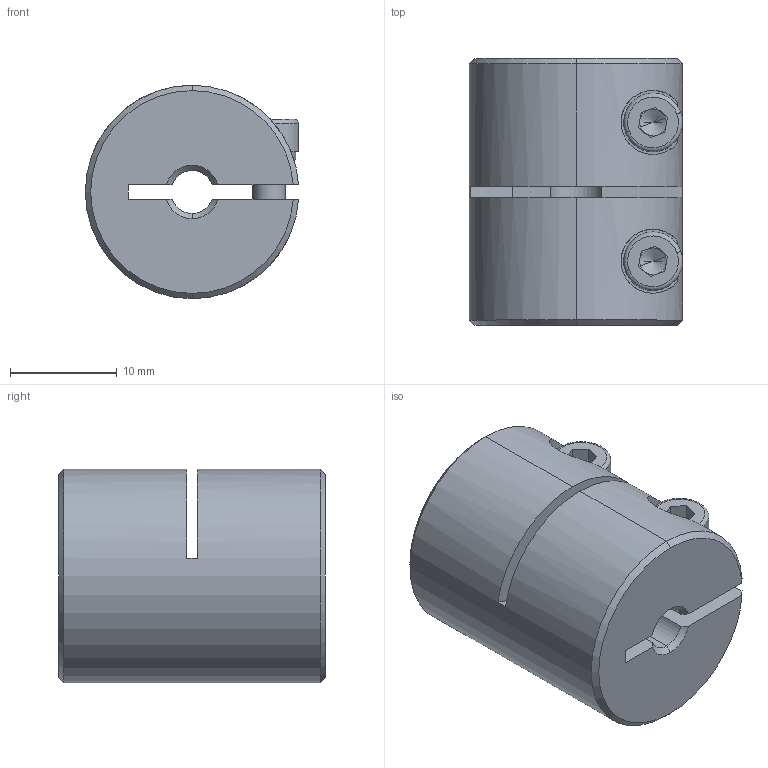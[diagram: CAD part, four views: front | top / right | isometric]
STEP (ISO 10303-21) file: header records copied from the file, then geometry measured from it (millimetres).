
FILE_DESCRIPTION (( 'STEP AP203' ), '1' );
FILE_NAME ('LL-B-D20L25-4-5.STEP', '2021-11-05T03:25:44', ( '' ), ( '' ), 'SwSTEP 2.0', 'SolidWorks 2018', '' );
FILE_SCHEMA (( 'CONFIG_CONTROL_DESIGN' ));
Length unit declared in the file: millimetre
Products named in the file (1): LL-B-D20L25-4-5
Bounding box: 19.98 x 25 x 20 mm (x, y, z)
Volume: 6819.9 mm3; surface area: 3615.2 mm2
Topology: 1 solids, 1 shells, 116 faces, 300 edges, 188 vertices
Faces by surface type: plane 53, cylinder 43, cone 16, torus 4
Entity records: 3789 total; most frequent: CARTESIAN_POINT 835, DIRECTION 630, ORIENTED_EDGE 592, EDGE_CURVE 296, AXIS2_PLACEMENT_3D 243, VERTEX_POINT 188, LINE 144, VECTOR 144
